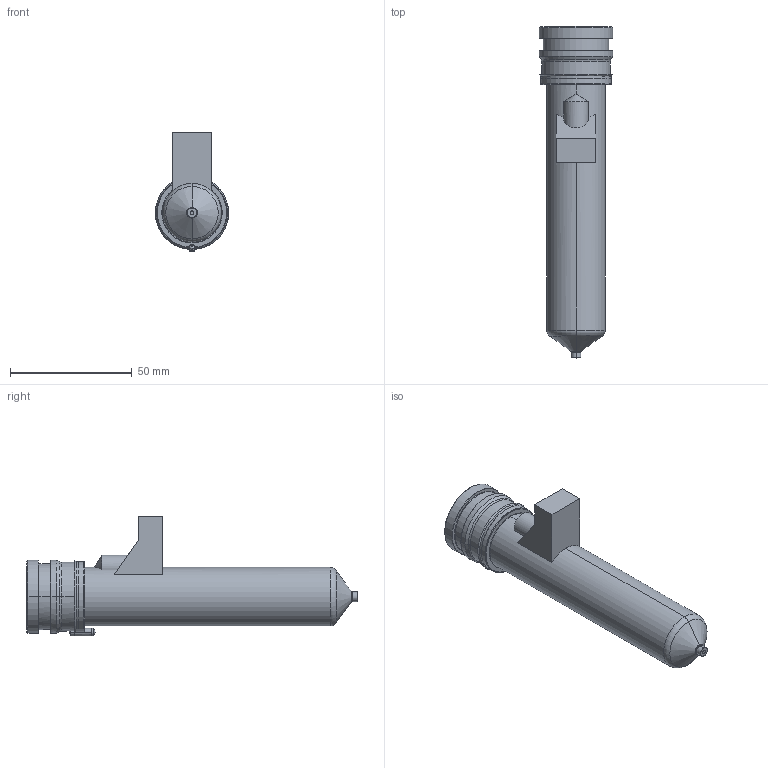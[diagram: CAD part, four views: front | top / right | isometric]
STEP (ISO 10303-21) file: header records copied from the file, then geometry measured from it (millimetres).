
FILE_DESCRIPTION((''),'2;1');
FILE_NAME('MPN-10-29-VP4-116-M','2026-02-05T12:58:57',('UPTIO'),('Thermoplay S.p.A.'),'CREO PARAMETRIC BY PTC INC, 2023494','CREO PARAMETRIC BY PTC INC, 2023494','');
FILE_SCHEMA(('CONFIG_CONTROL_DESIGN','SHAPE_APPEARANCE_LAYERS_GROUPS'));
Length unit declared in the file: millimetre
Products named in the file (1): MPN-10-29-VP4-116-M
Bounding box: 30 x 136.1 x 49 mm (x, y, z)
Volume: 43089.2 mm3; surface area: 44452 mm2
Topology: 3 solids, 5 shells, 570 faces, 1470 edges, 905 vertices
Faces by surface type: cylinder 177, plane 156, bspline 92, torus 69, cone 66, sphere 6, extrusion 4
Entity records: 28247 total; most frequent: CARTESIAN_POINT 11909, ORIENTED_EDGE 2926, DIRECTION 2618, EDGE_CURVE 1463, AXIS2_PLACEMENT_3D 1035, VERTEX_POINT 905, EDGE_LOOP 598, FACE_OUTER_BOUND 570
